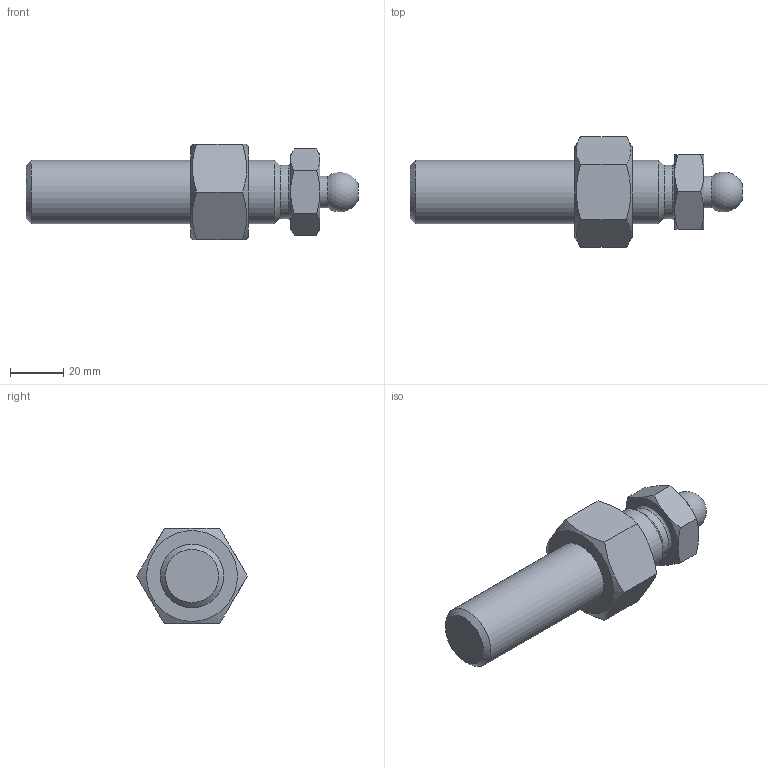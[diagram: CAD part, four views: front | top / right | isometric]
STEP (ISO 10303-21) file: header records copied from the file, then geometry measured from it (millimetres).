
FILE_DESCRIPTION(('STEP AP203'), '1');
FILE_NAME('A00020.124150_1', '', ('UNSPECIFIED'), ('UNSPECIFIED'), 'C3D Converter', 'C3D Toolkit', '');
FILE_SCHEMA(('CONFIG_CONTROL_DESIGN'));
Length unit declared in the file: millimetre
Products named in the file (2): A00020.124150
Assembly tree (1 placements, depth 2):
  A00020.124150
    (unnamed)
Bounding box: 124.8 x 41.57 x 36 mm (x, y, z)
Volume: 69937.2 mm3; surface area: 15769.8 mm2
Topology: 2 solids, 2 shells, 42 faces, 99 edges, 63 vertices
Faces by surface type: plane 18, cone 18, cylinder 4, torus 1, sphere 1
Full cylindrical faces by diameter (mm): 12 x1, 20 x1, 20.752 x1, 24 x1
Entity records: 2639 total; most frequent: CARTESIAN_POINT 1328, DIRECTION 174, ORIENTED_EDGE 174, EDGE_CURVE 87, AXIS2_PLACEMENT_3D 81, VERTEX_POINT 63, EDGE_LOOP 58, FACE_BOUND 46
